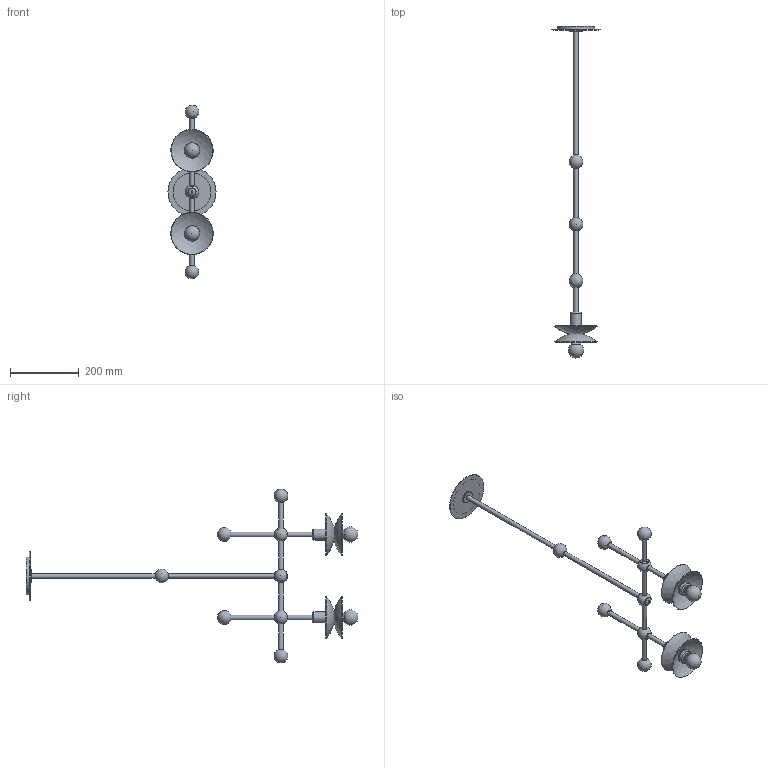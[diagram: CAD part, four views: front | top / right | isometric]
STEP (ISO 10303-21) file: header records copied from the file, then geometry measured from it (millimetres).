
FILE_DESCRIPTION(/* description */ (''),/* implementation_level */ '2;1');
FILE_NAME(/* name */ '260327_B_B770 Babylon Dobule.stp',/* time_stamp */ '2026-03-27T10:34:48+01:00',/* author */ ('Dominik'),/* organization */ (''),/* preprocessor_version */ 'ST-DEVELOPER v20.1',/* originating_system */ 'Autodesk Inventor 2026',/* authorisation */ '');
FILE_SCHEMA (('AUTOMOTIVE_DESIGN { 1 0 10303 214 3 1 1 }'));
Length unit declared in the file: millimetre
Products named in the file (1): B770 Babylon Dobule jako część
Bounding box: 140 x 965.12 x 505.73 mm (x, y, z)
Volume: 861397.3 mm3; surface area: 272544.5 mm2
Topology: 7 solids, 7 shells, 140 faces, 275 edges, 182 vertices
Faces by surface type: cylinder 50, plane 49, sphere 23, torus 8, cone 8, bspline 2
Full cylindrical faces by diameter (mm): 11.6 x2, 11.917 x2, 12 x4, 13 x10, 13.5 x9, 23.1 x3, 23.5 x3, 28 x2, 29 x4, 32 x2, 36 x1, 39.5 x4, 110 x1, 140 x1
Entity records: 4332 total; most frequent: CARTESIAN_POINT 1055, DIRECTION 708, ORIENTED_EDGE 514, AXIS2_PLACEMENT_3D 323, EDGE_CURVE 257, EDGE_LOOP 197, CIRCLE 184, VERTEX_POINT 182
